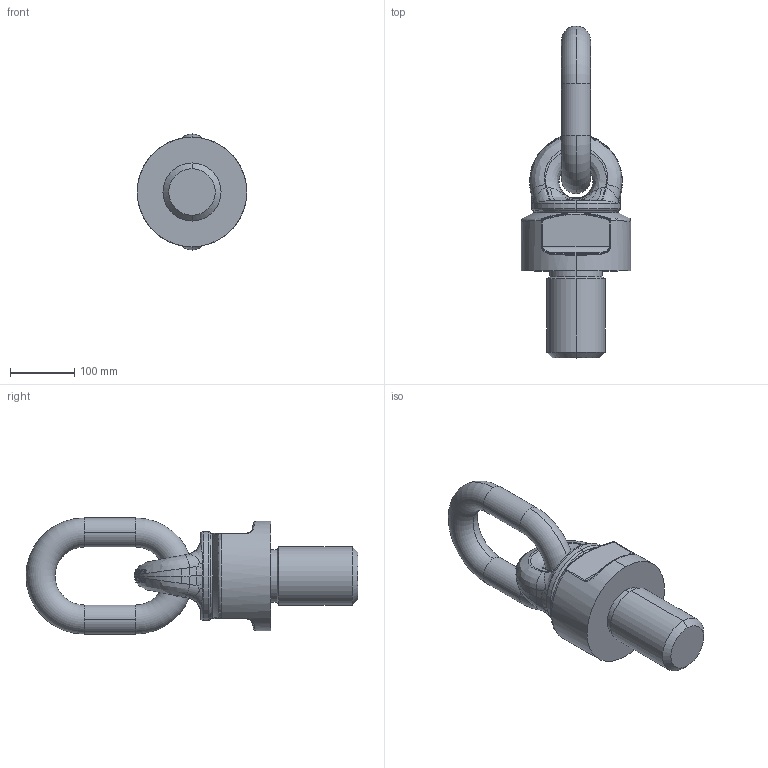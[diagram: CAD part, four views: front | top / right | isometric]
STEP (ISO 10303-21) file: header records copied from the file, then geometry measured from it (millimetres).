
FILE_DESCRIPTION(('STEP AP214'),'1');
FILE_NAME('c8003590135.stp','2017-03-22T14:34:41',('TraceParts'),('TraceParts S.A.'),'Spatial InterOp 3D',' ',' ');
FILE_SCHEMA(('automotive_design'));
Length unit declared in the file: millimetre
Products named in the file (3): c8003590135_1; c8003590135_2; c8003590135_3
Bounding box: 170 x 515 x 180 mm (x, y, z)
Volume: 4366685.1 mm3; surface area: 299010.8 mm2
Topology: 3 solids, 3 shells, 323 faces, 897 edges, 562 vertices
Faces by surface type: bspline 156, plane 67, cone 52, cylinder 26, torus 22
Entity records: 25223 total; most frequent: CARTESIAN_POINT 15275, ORIENTED_EDGE 1760, DIRECTION 1284, EDGE_CURVE 880, VERTEX_POINT 562, AXIS2_PLACEMENT_3D 552, STYLED_ITEM 326, PRESENTATION_STYLE_ASSIGNMENT 326
